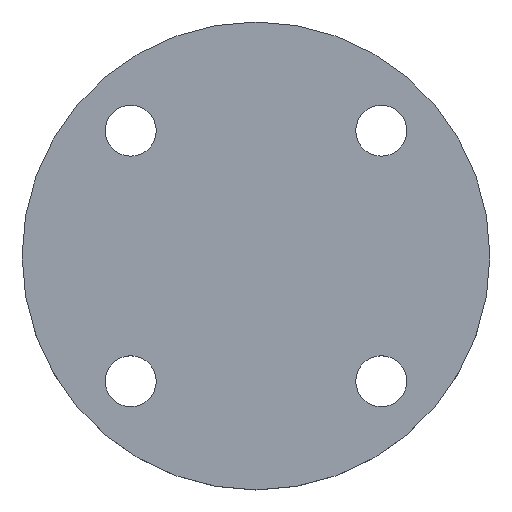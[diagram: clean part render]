
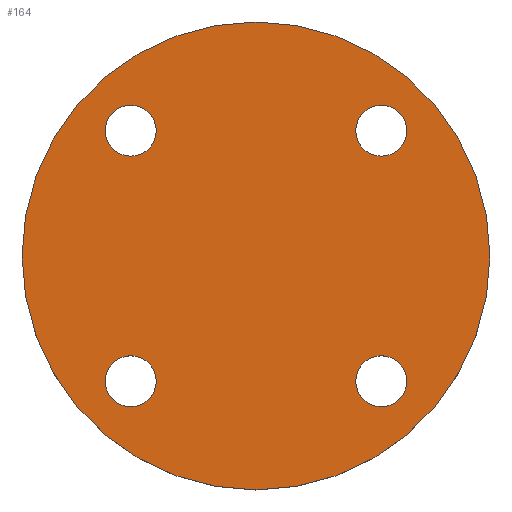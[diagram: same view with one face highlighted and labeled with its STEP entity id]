
A CAD part, top view. The second image highlights one B-rep face of the part: STEP entity #164.
In plain terms, the highlighted planar face has unit normal (0, 0, 1).
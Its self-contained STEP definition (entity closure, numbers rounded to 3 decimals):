
#3 = CIRCLE ( 'NONE', #340, 9. ) ;
#12 = AXIS2_PLACEMENT_3D ( 'NONE', #422, #423, #424 ) ;
#13 = CIRCLE ( 'NONE', #159, 9. ) ;
#20 = EDGE_CURVE ( 'NONE', #300, #243, #376, .T. ) ;
#25 = CIRCLE ( 'NONE', #39, 82.5 ) ;
#26 = CIRCLE ( 'NONE', #155, 9. ) ;
#29 = CIRCLE ( 'NONE', #148, 9. ) ;
#39 = AXIS2_PLACEMENT_3D ( 'NONE', #548, #549, #550 ) ;
#41 = EDGE_CURVE ( 'NONE', #279, #236, #165, .T. ) ;
#67 = CARTESIAN_POINT ( 'NONE',  ( 44.194, 44.194, 0. ) ) ;
#68 = DIRECTION ( 'NONE',  ( 0., 0., -1. ) ) ;
#69 = DIRECTION ( 'NONE',  ( -1., 0., 0. ) ) ;
#90 = CARTESIAN_POINT ( 'NONE',  ( 44.194, -44.194, 0. ) ) ;
#91 = DIRECTION ( 'NONE',  ( 0., 0., -1. ) ) ;
#92 = DIRECTION ( 'NONE',  ( -1., 0., 0. ) ) ;
#106 = EDGE_CURVE ( 'NONE', #202, #171, #163, .T. ) ;
#121 = CIRCLE ( 'NONE', #125, 9. ) ;
#122 = AXIS2_PLACEMENT_3D ( 'NONE', #457, #461, #462 ) ;
#123 = AXIS2_PLACEMENT_3D ( 'NONE', #481, #482, #484 ) ;
#125 = AXIS2_PLACEMENT_3D ( 'NONE', #464, #465, #468 ) ;
#134 = CIRCLE ( 'NONE', #122, 9. ) ;
#145 = EDGE_CURVE ( 'NONE', #180, #170, #29, .T. ) ;
#148 = AXIS2_PLACEMENT_3D ( 'NONE', #452, #453, #454 ) ;
#153 = EDGE_CURVE ( 'NONE', #170, #180, #134, .T. ) ;
#154 = EDGE_CURVE ( 'NONE', #243, #300, #121, .T. ) ;
#155 = AXIS2_PLACEMENT_3D ( 'NONE', #67, #68, #69 ) ;
#157 = EDGE_CURVE ( 'NONE', #177, #295, #3, .T. ) ;
#159 = AXIS2_PLACEMENT_3D ( 'NONE', #90, #91, #92 ) ;
#163 = CIRCLE ( 'NONE', #12, 9. ) ;
#164 = ADVANCED_FACE ( 'NONE', ( #475, #476, #477, #478, #479 ), #480, .T. ) ;
#165 = CIRCLE ( 'NONE', #168, 82.5 ) ;
#168 = AXIS2_PLACEMENT_3D ( 'NONE', #381, #382, #384 ) ;
#170 = VERTEX_POINT ( 'NONE', #492 ) ;
#171 = VERTEX_POINT ( 'NONE', #493 ) ;
#177 = VERTEX_POINT ( 'NONE', #498 ) ;
#180 = VERTEX_POINT ( 'NONE', #502 ) ;
#202 = VERTEX_POINT ( 'NONE', #509 ) ;
#217 = ORIENTED_EDGE ( 'NONE', *, *, #20, .T. ) ;
#221 = ORIENTED_EDGE ( 'NONE', *, *, #541, .T. ) ;
#222 = ORIENTED_EDGE ( 'NONE', *, *, #157, .T. ) ;
#224 = ORIENTED_EDGE ( 'NONE', *, *, #154, .T. ) ;
#226 = ORIENTED_EDGE ( 'NONE', *, *, #153, .T. ) ;
#227 = ORIENTED_EDGE ( 'NONE', *, *, #145, .T. ) ;
#230 = ORIENTED_EDGE ( 'NONE', *, *, #487, .T. ) ;
#231 = ORIENTED_EDGE ( 'NONE', *, *, #106, .T. ) ;
#232 = ORIENTED_EDGE ( 'NONE', *, *, #339, .T. ) ;
#233 = ORIENTED_EDGE ( 'NONE', *, *, #41, .T. ) ;
#236 = VERTEX_POINT ( 'NONE', #518 ) ;
#243 = VERTEX_POINT ( 'NONE', #519 ) ;
#279 = VERTEX_POINT ( 'NONE', #533 ) ;
#286 = EDGE_LOOP ( 'NONE', ( #217, #224 ) ) ;
#294 = EDGE_LOOP ( 'NONE', ( #230, #231 ) ) ;
#295 = VERTEX_POINT ( 'NONE', #538 ) ;
#299 = EDGE_LOOP ( 'NONE', ( #232, #233 ) ) ;
#300 = VERTEX_POINT ( 'NONE', #539 ) ;
#310 = EDGE_LOOP ( 'NONE', ( #226, #227 ) ) ;
#313 = EDGE_LOOP ( 'NONE', ( #221, #222 ) ) ;
#339 = EDGE_CURVE ( 'NONE', #236, #279, #25, .T. ) ;
#340 = AXIS2_PLACEMENT_3D ( 'NONE', #469, #470, #471 ) ;
#355 = CARTESIAN_POINT ( 'NONE',  ( -44.194, -44.194, 0. ) ) ;
#356 = DIRECTION ( 'NONE',  ( 0., 0., -1. ) ) ;
#360 = DIRECTION ( 'NONE',  ( -1., 0., 0. ) ) ;
#361 = AXIS2_PLACEMENT_3D ( 'NONE', #355, #356, #360 ) ;
#376 = CIRCLE ( 'NONE', #361, 9. ) ;
#381 = CARTESIAN_POINT ( 'NONE',  ( 0., 0., 0. ) ) ;
#382 = DIRECTION ( 'NONE',  ( 0., 0., 1. ) ) ;
#384 = DIRECTION ( 'NONE',  ( 1., 0., 0. ) ) ;
#422 = CARTESIAN_POINT ( 'NONE',  ( 44.194, 44.194, 0. ) ) ;
#423 = DIRECTION ( 'NONE',  ( 0., 0., -1. ) ) ;
#424 = DIRECTION ( 'NONE',  ( -1., 0., 0. ) ) ;
#452 = CARTESIAN_POINT ( 'NONE',  ( -44.194, 44.194, 0. ) ) ;
#453 = DIRECTION ( 'NONE',  ( 0., 0., -1. ) ) ;
#454 = DIRECTION ( 'NONE',  ( -1., 0., 0. ) ) ;
#457 = CARTESIAN_POINT ( 'NONE',  ( -44.194, 44.194, 0. ) ) ;
#461 = DIRECTION ( 'NONE',  ( 0., 0., -1. ) ) ;
#462 = DIRECTION ( 'NONE',  ( -1., 0., 0. ) ) ;
#464 = CARTESIAN_POINT ( 'NONE',  ( -44.194, -44.194, 0. ) ) ;
#465 = DIRECTION ( 'NONE',  ( 0., 0., -1. ) ) ;
#468 = DIRECTION ( 'NONE',  ( -1., 0., 0. ) ) ;
#469 = CARTESIAN_POINT ( 'NONE',  ( 44.194, -44.194, 0. ) ) ;
#470 = DIRECTION ( 'NONE',  ( 0., 0., -1. ) ) ;
#471 = DIRECTION ( 'NONE',  ( -1., 0., 0. ) ) ;
#475 = FACE_BOUND ( 'NONE', #313, .T. ) ;
#476 = FACE_BOUND ( 'NONE', #286, .T. ) ;
#477 = FACE_BOUND ( 'NONE', #310, .T. ) ;
#478 = FACE_BOUND ( 'NONE', #294, .T. ) ;
#479 = FACE_OUTER_BOUND ( 'NONE', #299, .T. ) ;
#480 = PLANE ( 'NONE',  #123 ) ;
#481 = CARTESIAN_POINT ( 'NONE',  ( 0., 0., 0. ) ) ;
#482 = DIRECTION ( 'NONE',  ( 0., 0., 1. ) ) ;
#484 = DIRECTION ( 'NONE',  ( 1., 0., 0. ) ) ;
#487 = EDGE_CURVE ( 'NONE', #171, #202, #26, .T. ) ;
#492 = CARTESIAN_POINT ( 'NONE',  ( -35.194, 44.194, 0. ) ) ;
#493 = CARTESIAN_POINT ( 'NONE',  ( 53.194, 44.194, 0. ) ) ;
#498 = CARTESIAN_POINT ( 'NONE',  ( 35.194, -44.194, 0. ) ) ;
#502 = CARTESIAN_POINT ( 'NONE',  ( -53.194, 44.194, 0. ) ) ;
#509 = CARTESIAN_POINT ( 'NONE',  ( 35.194, 44.194, 0. ) ) ;
#518 = CARTESIAN_POINT ( 'NONE',  ( 82.5, 0., 0. ) ) ;
#519 = CARTESIAN_POINT ( 'NONE',  ( -53.194, -44.194, 0. ) ) ;
#533 = CARTESIAN_POINT ( 'NONE',  ( -82.5, 0., 0. ) ) ;
#538 = CARTESIAN_POINT ( 'NONE',  ( 53.194, -44.194, 0. ) ) ;
#539 = CARTESIAN_POINT ( 'NONE',  ( -35.194, -44.194, 0. ) ) ;
#541 = EDGE_CURVE ( 'NONE', #295, #177, #13, .T. ) ;
#548 = CARTESIAN_POINT ( 'NONE',  ( 0., 0., 0. ) ) ;
#549 = DIRECTION ( 'NONE',  ( 0., 0., 1. ) ) ;
#550 = DIRECTION ( 'NONE',  ( 1., 0., 0. ) ) ;
